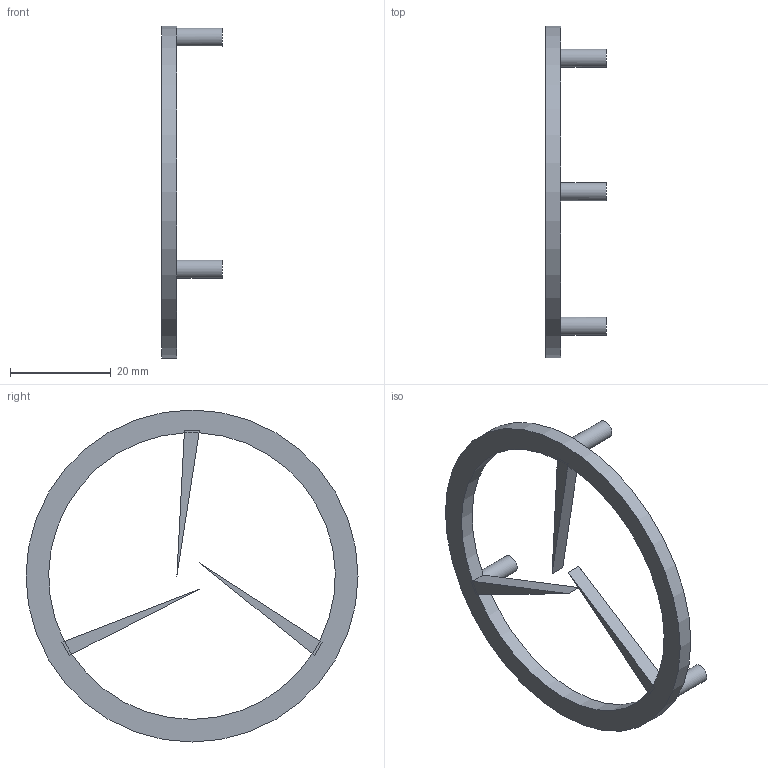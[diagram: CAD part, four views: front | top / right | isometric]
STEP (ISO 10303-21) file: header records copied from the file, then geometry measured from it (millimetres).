
FILE_DESCRIPTION(('Open CASCADE Model'),'2;1');
FILE_NAME('Open CASCADE Shape Model','2026-11-03T04:29:35',('Author'),( 'Open CASCADE'),'Open CASCADE STEP processor 7.8','Open CASCADE 7.8' ,'Unknown');
FILE_SCHEMA(('AUTOMOTIVE_DESIGN { 1 0 10303 214 1 1 1 1 }'));
Length unit declared in the file: millimetre
Products named in the file (1): Open CASCADE STEP translator 7.8 40
Bounding box: 12 x 66 x 66 mm (x, y, z)
Volume: 3260.9 mm3; surface area: 3944.5 mm2
Topology: 1 solids, 1 shells, 30 faces, 74 edges, 46 vertices
Faces by surface type: plane 23, cylinder 7
Full cylindrical faces by diameter (mm): 3.6 x3, 66 x1
Entity records: 1880 total; most frequent: CARTESIAN_POINT 353, DIRECTION 298, LINE 152, VECTOR 152, ORIENTED_EDGE 148, PCURVE 148, DEFINITIONAL_REPRESENTATION 148, EDGE_CURVE 74
